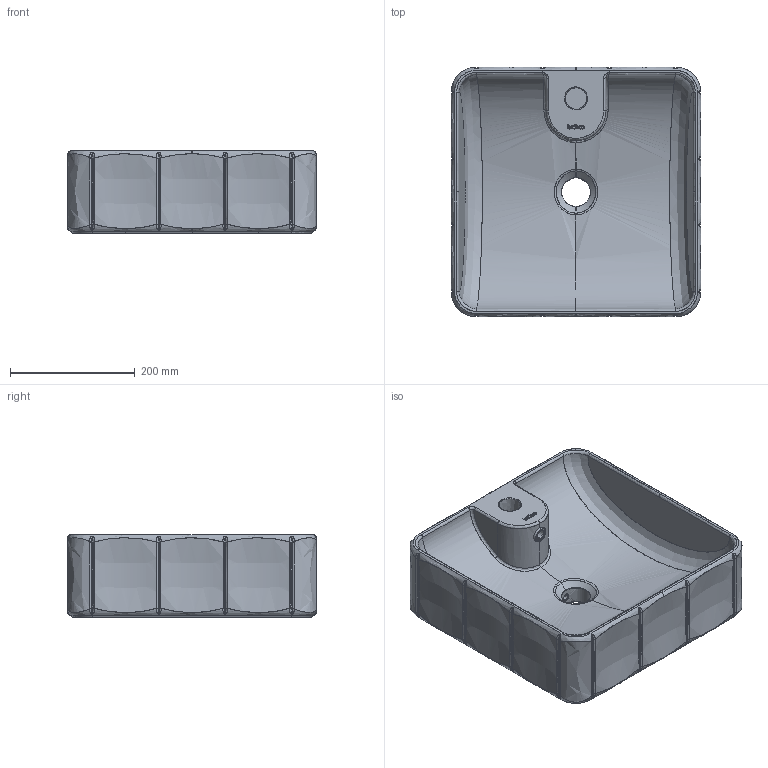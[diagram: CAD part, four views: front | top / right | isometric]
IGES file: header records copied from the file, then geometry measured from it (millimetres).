
Global section: file name: C:\Users\User\Desktop\LAVABOS\4162_CIRCUS 40\4162_CIRCUS 40.igs; native system: Rhinoceros ( May  7 2021 ); preprocessor: Trout Lake IGES 012 May  7 2021; date: 220618.102407; units: millimetre
Bounding box: 400 x 400 x 133.25 mm (x, y, z)
Surface area: 717151.6 mm2 (no closed solid volume)
Topology: 0 solids, 0 shells, 460 faces, 7706 edges, 7699 vertices
Faces by surface type: bspline 460
